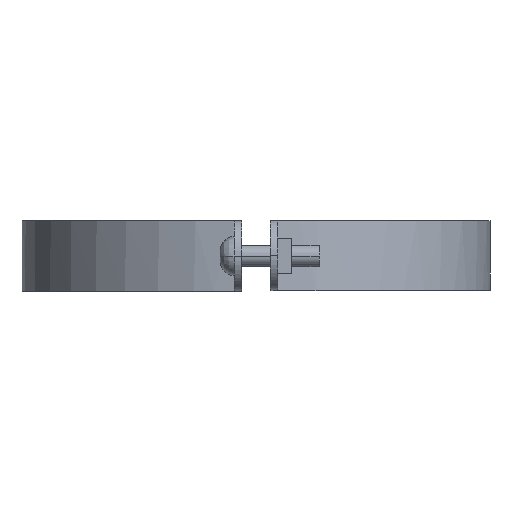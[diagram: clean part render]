
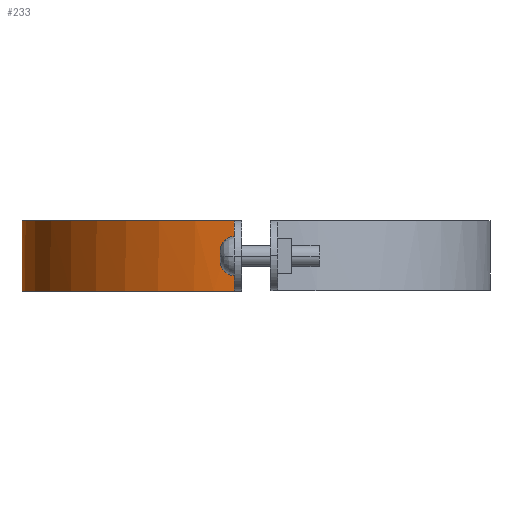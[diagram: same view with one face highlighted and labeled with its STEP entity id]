
A CAD part, left-side view. The second image highlights one B-rep face of the part: STEP entity #233.
In plain terms, the highlighted free-form (B-spline) face has degree [3, 1] with [4, 2] control points.
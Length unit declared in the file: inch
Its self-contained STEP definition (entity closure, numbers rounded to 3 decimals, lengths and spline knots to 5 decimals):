
#233=ADVANCED_FACE('',(#479),#480,.T.);
#479=FACE_OUTER_BOUND('',#895,.T.);
#480=B_SPLINE_SURFACE_WITH_KNOTS('',3,1,((#896,#897),(#898,#899),(#900,#901),(#902,#903)),.UNSPECIFIED.,.F.,.F.,.F.,(4,4),(2,2),(-1.0,-0.0),(0.0,1.25),.UNSPECIFIED.);
#895=EDGE_LOOP('',(#1669,#1670,#1671,#1672));
#896=CARTESIAN_POINT('',(4.84494,8.09254,0.0));
#897=CARTESIAN_POINT('',(4.84494,8.09254,1.25));
#898=CARTESIAN_POINT('',(2.71008,8.09254,0.0));
#899=CARTESIAN_POINT('',(2.71008,8.09254,1.25));
#900=CARTESIAN_POINT('',(0.92605,6.46756,0.0));
#901=CARTESIAN_POINT('',(0.92605,6.46756,1.25));
#902=CARTESIAN_POINT('',(0.72727,4.34196,0.0));
#903=CARTESIAN_POINT('',(0.72727,4.34196,1.25));
#1669=ORIENTED_EDGE('',*,*,#2156,.T.);
#1670=ORIENTED_EDGE('',*,*,#2063,.T.);
#1671=ORIENTED_EDGE('',*,*,#2140,.T.);
#1672=ORIENTED_EDGE('',*,*,#2157,.F.);
#2063=EDGE_CURVE('',#2378,#2385,#2387,.T.);
#2140=EDGE_CURVE('',#2385,#2500,#2503,.T.);
#2156=EDGE_CURVE('',#2526,#2378,#2527,.T.);
#2157=EDGE_CURVE('',#2526,#2500,#2528,.T.);
#2378=VERTEX_POINT('',#2862);
#2385=VERTEX_POINT('',#2876);
#2387=LINE('',#2879,#2880);
#2500=VERTEX_POINT('',#3103);
#2503=B_SPLINE_CURVE_WITH_KNOTS('',3,(#3107,#3108,#3109,#3110),.UNSPECIFIED.,.F.,.F.,(4,4),(0.0,1.0),.UNSPECIFIED.);
#2526=VERTEX_POINT('',#3144);
#2527=B_SPLINE_CURVE_WITH_KNOTS('',3,(#3145,#3146,#3147,#3148),.UNSPECIFIED.,.F.,.F.,(4,4),(-1.0,-0.0),.UNSPECIFIED.);
#2528=LINE('',#3149,#3150);
#2862=CARTESIAN_POINT('',(0.72727,4.34196,0.00011));
#2876=CARTESIAN_POINT('',(0.72727,4.34196,1.24992));
#2879=CARTESIAN_POINT('',(0.72727,4.34196,0.0));
#2880=VECTOR('',#3435,1.0);
#3103=CARTESIAN_POINT('',(4.84494,8.09254,1.24992));
#3107=CARTESIAN_POINT('',(0.72727,4.34196,1.24992));
#3108=CARTESIAN_POINT('',(0.92605,6.46756,1.24992));
#3109=CARTESIAN_POINT('',(2.71008,8.09254,1.24992));
#3110=CARTESIAN_POINT('',(4.84494,8.09254,1.24992));
#3144=CARTESIAN_POINT('',(4.84494,8.09254,0.00011));
#3145=CARTESIAN_POINT('',(4.84494,8.09254,0.00011));
#3146=CARTESIAN_POINT('',(2.71008,8.09254,0.00011));
#3147=CARTESIAN_POINT('',(0.92605,6.46756,0.00011));
#3148=CARTESIAN_POINT('',(0.72727,4.34196,0.00011));
#3149=CARTESIAN_POINT('',(4.84494,8.09254,0.0));
#3150=VECTOR('',#3483,1.0);
#3435=DIRECTION('',(0.0,0.0,1.0));
#3483=DIRECTION('',(0.0,0.0,1.0));
